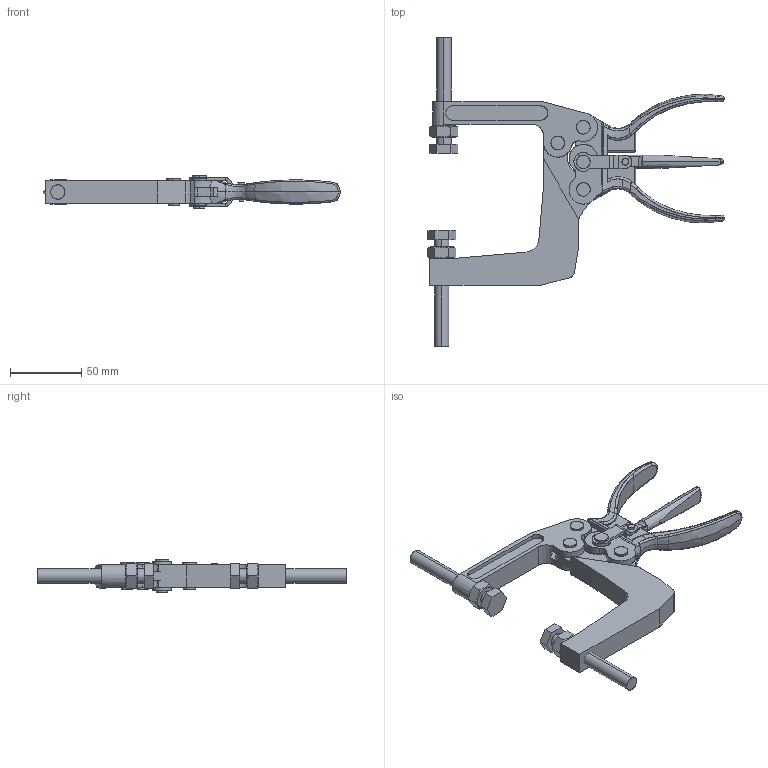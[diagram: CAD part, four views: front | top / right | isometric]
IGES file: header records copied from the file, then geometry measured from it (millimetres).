
Start section: SolidWorks IGES file using analytic representation for surfaces
Global section: file name: C:\Projetos\Grampos\Alicates\KFA-90\KFA-90-2\KFA-90-2.IGS; native system: SolidWorks 2013; preprocessor: SolidWorks 2013; author: Ricardo; date: 140904.151856; units: millimetre
Bounding box: 208.31 x 217 x 23.5 mm (x, y, z)
Surface area: 57534.3 mm2 (no closed solid volume)
Topology: 0 solids, 0 shells, 440 faces, 6390 edges, 6378 vertices
Faces by surface type: bspline 228, revolution 212
